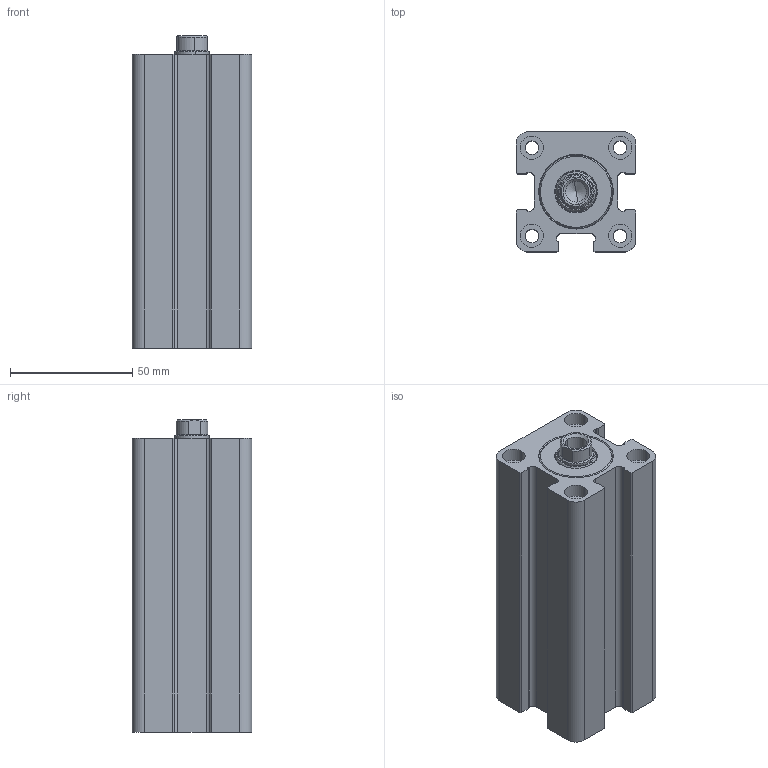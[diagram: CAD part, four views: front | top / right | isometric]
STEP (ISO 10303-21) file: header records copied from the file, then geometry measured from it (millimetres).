
FILE_DESCRIPTION (( 'STEP AP214' ), '1' );
FILE_NAME ('KSWC_03_M_25_14_75_WEB.STEP', '2021-08-15T14:40:27', ( '' ), ( '' ), 'SwSTEP 2.0', 'SolidWorks 2021', '' );
FILE_SCHEMA (( 'AUTOMOTIVE_DESIGN' ));
Length unit declared in the file: millimetre
Products named in the file (6): KSWC_03_25_14_烰_KAPAK; KSWC_03_25_14_ON_KAPAK; K06-14X18_6X2_3X3_3 (K06-014); KSWC_03_25_GOVDE_WEB; 14_K_MIL_WEB; KSWC_03_M_25_14_75_WEB
Assembly tree (5 placements, depth 3):
  KSWC_03_M_25_14_75_WEB
    KSWC_03_25_GOVDE_WEB
    KSWC_03_25_14_ON_KAPAK
      KSWC_03_25_14_烰_KAPAK
      K06-14X18_6X2_3X3_3 (K06-014)
    14_K_MIL_WEB
Bounding box: 49 x 49 x 127.5 mm (x, y, z)
Volume: 212300.5 mm3; surface area: 54817.9 mm2
Topology: 4 solids, 4 shells, 404 faces, 996 edges, 639 vertices
Faces by surface type: plane 147, bspline 121, cylinder 91, cone 45
Entity records: 16786 total; most frequent: CARTESIAN_POINT 7598, ORIENTED_EDGE 1988, DIRECTION 1537, EDGE_CURVE 994, VERTEX_POINT 639, VECTOR 513, LINE 513, AXIS2_PLACEMENT_3D 512
